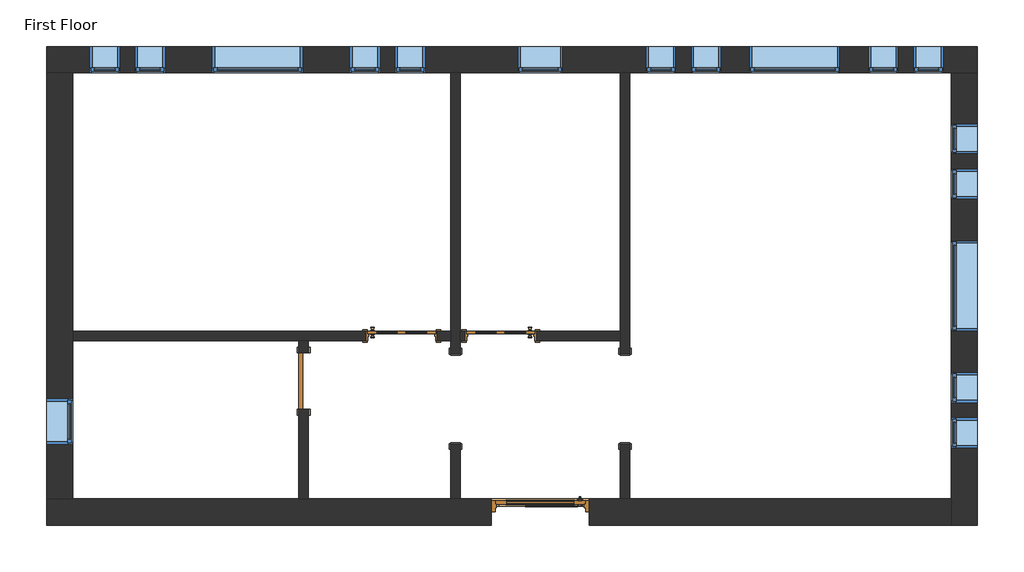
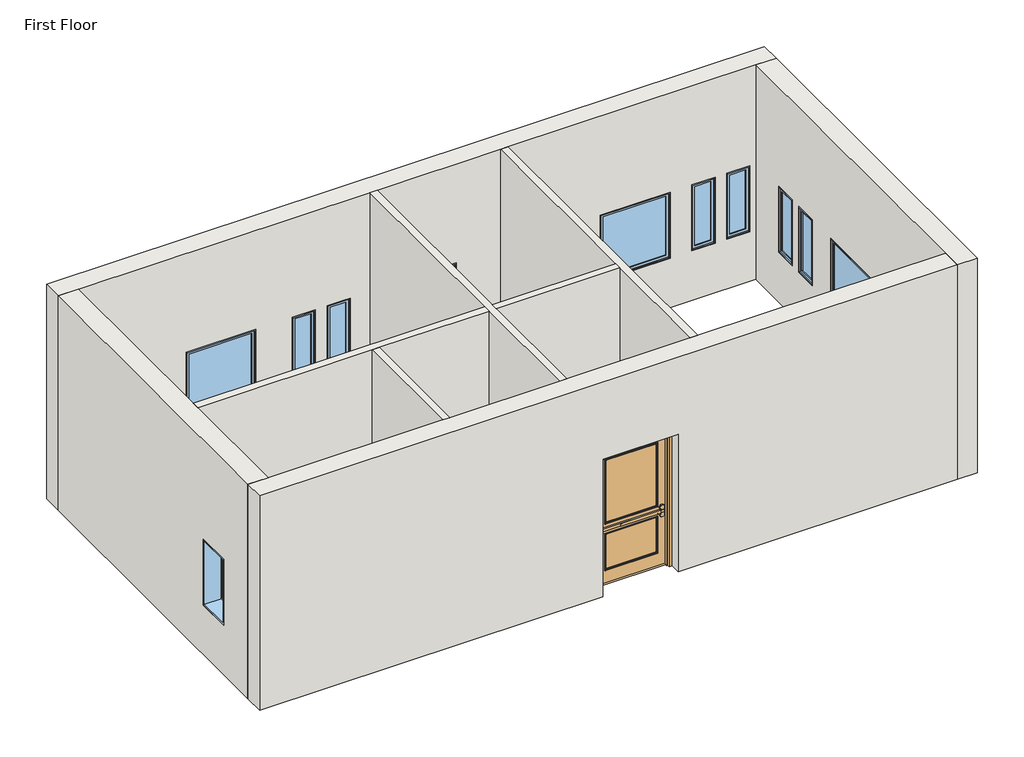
# One storey: 17 windows, 8 walls, 4 doors, 2 proxies.
"""IFC4 building model written with IfcOpenShell, lengths in millimetres."""

from ifc_helpers import new_model, si_unit, frame, origin, place, context, project, spatial, polyline, outline, extrude, faceted_brep, transform, mapped, element, save
from components import proxy_f44482cc, proxy_d58c73d0, door_734823c0, door_3a280f7b, door_48307b55, door_4d6c7550, window_da97879f, window_d61ef850, window_60baf983, window_6eb97611

model = new_model("IFC4")

# Units and contexts
model_context = context("Model", 3, world=origin())
ifc_project = project(units=[si_unit("LENGTHUNIT", "METRE", prefix="MILLI")], contexts=[model_context])

# Site, building, storey
site = spatial("IfcSite", under=ifc_project)
building = spatial("IfcBuilding", under=site)
storey = spatial("IfcBuildingStorey", under=building, Name="First Floor", Elevation=-914.4)

# Proxies
placement = place(None, origin())
proxy_shape = proxy_f44482cc(model_context)
element("IfcBuildingElementProxy", 1, Name="Passage Opening-Cased : 48\" x 84\"", ObjectType="Passage Opening-Cased : 48\" x 84\"", at=placement, inside=storey, context=model_context, shape_type="MappedRepresentation", body=[
    mapped(proxy_shape, transform((-8577.1844712, 3224.0452741, -914.4), x_axis=(0.0, 1.0, 0.0), y_axis=(-1.0, 0.0, 0.0), z_axis=(0.0, 0.0, 1.0))),
])
proxy_2_shape = proxy_d58c73d0(model_context)
element("IfcBuildingElementProxy", 2, Name="Passage Opening-Cased : 48\" x 84\"", ObjectType="Passage Opening-Cased : 48\" x 84\"", at=placement, inside=storey, context=model_context, shape_type="MappedRepresentation", body=[
    mapped(proxy_2_shape, transform((-10863.1844712, 3224.0452741, -914.4), x_axis=(0.0, 1.0, 0.0), y_axis=(-1.0, 0.0, 0.0), z_axis=(0.0, 0.0, 1.0))),
])

# Doors
door_shape = door_734823c0(model_context)
element("IfcDoor", 3, ObjectType="Door-Exterior-Single-Two_Lite : 48\" x 96\"", at=placement, inside=storey, context=model_context, shape_type="MappedRepresentation", body=[
    mapped(door_shape, transform((-9720.1844712, 1685.5066174, -914.4), x_axis=(-1.0, 0.0, 0.0), y_axis=(0.0, -1.0, 0.0), z_axis=(0.0, 0.0, 1.0))),
])
door_2_shape = door_3a280f7b(model_context)
element("IfcDoor", 4, ObjectType="Door-Interior-Single-4_Panel-Wood : 36\" x 84\"", at=placement, inside=storey, context=model_context, shape_type="MappedRepresentation", body=[
    mapped(door_2_shape, transform((-10253.5844712, 4068.3441174, -914.4), x_axis=(-1.0, 0.0, 0.0), y_axis=(0.0, -1.0, 0.0), z_axis=(0.0, 0.0, 1.0))),
])
door_3_shape = door_48307b55(model_context)
element("IfcDoor", 5, ObjectType="Door-Interior-Single-4_Panel-Wood : 36\" x 84\"", at=placement, inside=storey, context=model_context, shape_type="MappedRepresentation", body=[
    mapped(door_3_shape, transform((-11588.6719712, 4068.3441174, -914.4), x_axis=(1.0, 0.0, 0.0), y_axis=(0.0, 1.0, 0.0), z_axis=(0.0, 0.0, 1.0))),
])
door_4_shape = door_4d6c7550(model_context)
element("IfcDoor", 6, ObjectType="Single-Flush : 30\" x 84\"", at=placement, inside=storey, context=model_context, shape_type="MappedRepresentation", body=[
    mapped(door_4_shape, transform((-12909.4719712, 3455.5691174, -914.4), x_axis=(0.0, 1.0, 0.0), y_axis=(-1.0, 0.0, 0.0), z_axis=(0.0, 0.0, 1.0))),
])

# Walls
element("IfcWall", 7, ObjectType="Exterior - Brick on Mtl. Stud", at=placement, inside=storey, context=model_context, shape_type="Brep", body=[
    faceted_brep([(-16373.3969712, 7611.6441174, -914.4), (-16020.9719712, 7611.6441174, -914.4), (-10926.6844712, 7611.6441174, -914.4), (-10799.6844712, 7611.6441174, -914.4), (-8640.6844712, 7611.6441174, -914.4), (-8513.6844712, 7611.6441174, -914.4), (-4181.3969712, 7611.6441174, -914.4), (-3828.9719712, 7611.6441174, -914.4), (-3828.9719712, 7611.6441174, 3048.0), (-4181.3969712, 7611.6441174, 3048.0), (-8513.6844712, 7611.6441174, 3048.0), (-8640.6844712, 7611.6441174, 3048.0), (-10799.6844712, 7611.6441174, 3048.0), (-10926.6844712, 7611.6441174, 3048.0), (-16020.9719712, 7611.6441174, 3048.0), (-16373.3969712, 7611.6441174, 3048.0), (-10024.9844712, 7611.6441174, 1219.2), (-9415.3844712, 7611.6441174, 1219.2), (-9415.3844712, 7611.6441174, 0.0), (-10024.9844712, 7611.6441174, 0.0), (-14139.7844712, 7611.6441174, 1219.2), (-12920.5844712, 7611.6441174, 1219.2), (-12920.5844712, 7611.6441174, 0.0), (-14139.7844712, 7611.6441174, 0.0), (-6900.7844712, 7611.6441174, 1219.2), (-5681.5844712, 7611.6441174, 1219.2), (-5681.5844712, 7611.6441174, 0.0), (-6900.7844712, 7611.6441174, 0.0), (-15790.7844712, 7611.6441174, 1219.2), (-15384.3844712, 7611.6441174, 1219.2), (-15384.3844712, 7611.6441174, 0.0), (-15790.7844712, 7611.6441174, 0.0), (-15181.1844712, 7611.6441174, 1219.2), (-14774.7844712, 7611.6441174, 1219.2), (-14774.7844712, 7611.6441174, 0.0), (-15181.1844712, 7611.6441174, 0.0), (-11879.1844712, 7611.6441174, 1219.2), (-11879.1844712, 7611.6441174, 0.0), (-12285.5844712, 7611.6441174, 0.0), (-12285.5844712, 7611.6441174, 1219.2), (-11269.5844712, 7611.6441174, 1219.2), (-11269.5844712, 7611.6441174, 0.0), (-11675.9844712, 7611.6441174, 0.0), (-11675.9844712, 7611.6441174, 1219.2), (-7688.1844712, 7611.6441174, 1219.2), (-7281.7844712, 7611.6441174, 1219.2), (-7281.7844712, 7611.6441174, 0.0), (-7688.1844712, 7611.6441174, 0.0), (-8297.7844712, 7611.6441174, 1219.2), (-7891.3844712, 7611.6441174, 1219.2), (-7891.3844712, 7611.6441174, 0.0), (-8297.7844712, 7611.6441174, 0.0), (-4894.1844712, 7611.6441174, 1219.2), (-4894.1844712, 7611.6441174, 0.0), (-5300.5844712, 7611.6441174, 0.0), (-5300.5844712, 7611.6441174, 1219.2), (-4284.5844712, 7611.6441174, 1219.2), (-4284.5844712, 7611.6441174, 0.0), (-4690.9844712, 7611.6441174, 0.0), (-4690.9844712, 7611.6441174, 1219.2), (-16373.3969712, 7964.0691174, -914.4), (-16373.3969712, 7964.0691174, 3048.0), (-3828.9719712, 7964.0691174, 3048.0), (-3828.9719712, 7964.0691174, -914.4), (-10024.9844712, 7964.0691174, 1219.2), (-10024.9844712, 7964.0691174, 0.0), (-9415.3844712, 7964.0691174, 0.0), (-9415.3844712, 7964.0691174, 1219.2), (-14139.7844712, 7964.0691174, 1219.2), (-14139.7844712, 7964.0691174, 0.0), (-12920.5844712, 7964.0691174, 0.0), (-12920.5844712, 7964.0691174, 1219.2), (-6900.7844712, 7964.0691174, 1219.2), (-6900.7844712, 7964.0691174, 0.0), (-5681.5844712, 7964.0691174, 0.0), (-5681.5844712, 7964.0691174, 1219.2), (-15790.7844712, 7964.0691174, 1219.2), (-15790.7844712, 7964.0691174, 0.0), (-15384.3844712, 7964.0691174, 0.0), (-15384.3844712, 7964.0691174, 1219.2), (-15181.1844712, 7964.0691174, 1219.2), (-15181.1844712, 7964.0691174, 0.0), (-14774.7844712, 7964.0691174, 0.0), (-14774.7844712, 7964.0691174, 1219.2), (-11879.1844712, 7964.0691174, 1219.2), (-12285.5844712, 7964.0691174, 1219.2), (-12285.5844712, 7964.0691174, 0.0), (-11879.1844712, 7964.0691174, 0.0), (-11269.5844712, 7964.0691174, 1219.2), (-11675.9844712, 7964.0691174, 1219.2), (-11675.9844712, 7964.0691174, 0.0), (-11269.5844712, 7964.0691174, 0.0), (-7688.1844712, 7964.0691174, 1219.2), (-7688.1844712, 7964.0691174, 0.0), (-7281.7844712, 7964.0691174, 0.0), (-7281.7844712, 7964.0691174, 1219.2), (-8297.7844712, 7964.0691174, 1219.2), (-8297.7844712, 7964.0691174, 0.0), (-7891.3844712, 7964.0691174, 0.0), (-7891.3844712, 7964.0691174, 1219.2), (-4894.1844712, 7964.0691174, 1219.2), (-5300.5844712, 7964.0691174, 1219.2), (-5300.5844712, 7964.0691174, 0.0), (-4894.1844712, 7964.0691174, 0.0), (-4284.5844712, 7964.0691174, 1219.2), (-4690.9844712, 7964.0691174, 1219.2), (-4690.9844712, 7964.0691174, 0.0), (-4284.5844712, 7964.0691174, 0.0)], [[[0, 1, 2, 3, 4, 5, 6, 7, 8, 9, 10, 11, 12, 13, 14, 15], [16, 17, 18, 19], [20, 21, 22, 23], [24, 25, 26, 27], [28, 29, 30, 31], [32, 33, 34, 35], [36, 37, 38, 39], [40, 41, 42, 43], [44, 45, 46, 47], [48, 49, 50, 51], [52, 53, 54, 55], [56, 57, 58, 59]], [[60, 61, 62, 63], [64, 65, 66, 67], [68, 69, 70, 71], [72, 73, 74, 75], [76, 77, 78, 79], [80, 81, 82, 83], [84, 85, 86, 87], [88, 89, 90, 91], [92, 93, 94, 95], [96, 97, 98, 99], [100, 101, 102, 103], [104, 105, 106, 107]], [[7, 6, 5, 4, 3, 2, 1, 0, 60, 63]], [[15, 14, 13, 12, 11, 10, 9, 8, 62, 61]], [[8, 7, 63, 62]], [[0, 15, 61, 60]], [[65, 64, 16, 19]], [[66, 65, 19, 18]], [[67, 66, 18, 17]], [[64, 67, 17, 16]], [[69, 68, 20, 23]], [[70, 69, 23, 22]], [[71, 70, 22, 21]], [[68, 71, 21, 20]], [[73, 72, 24, 27]], [[74, 73, 27, 26]], [[75, 74, 26, 25]], [[72, 75, 25, 24]], [[77, 76, 28, 31]], [[78, 77, 31, 30]], [[79, 78, 30, 29]], [[76, 79, 29, 28]], [[81, 80, 32, 35]], [[82, 81, 35, 34]], [[83, 82, 34, 33]], [[80, 83, 33, 32]], [[37, 36, 84, 87]], [[38, 37, 87, 86]], [[39, 38, 86, 85]], [[36, 39, 85, 84]], [[41, 40, 88, 91]], [[42, 41, 91, 90]], [[43, 42, 90, 89]], [[40, 43, 89, 88]], [[93, 92, 44, 47]], [[94, 93, 47, 46]], [[95, 94, 46, 45]], [[92, 95, 45, 44]], [[97, 96, 48, 51]], [[98, 97, 51, 50]], [[99, 98, 50, 49]], [[96, 99, 49, 48]], [[53, 52, 100, 103]], [[54, 53, 103, 102]], [[55, 54, 102, 101]], [[52, 55, 101, 100]], [[57, 56, 104, 107]], [[58, 57, 107, 106]], [[59, 58, 106, 105]], [[56, 59, 105, 104]]]),
])
element("IfcWall", 8, ObjectType="Exterior - Brick on Mtl. Stud", at=placement, inside=storey, context=model_context, shape_type="Brep", body=[
    faceted_brep([(-4181.3969712, 7611.6441174, -914.4), (-4181.3969712, 1868.0691174, -914.4), (-4181.3969712, 1515.6441174, -914.4), (-4181.3969712, 1515.6441174, 3048.0), (-4181.3969712, 1868.0691174, 3048.0), (-4181.3969712, 7611.6441174, 3048.0), (-4181.3969712, 5349.4566174, 1219.2), (-4181.3969712, 4130.2566174, 1219.2), (-4181.3969712, 4130.2566174, 0.0), (-4181.3969712, 5349.4566174, 0.0), (-4181.3969712, 6314.6566174, 1219.2), (-4181.3969712, 5908.2566174, 1219.2), (-4181.3969712, 5908.2566174, 0.0), (-4181.3969712, 6314.6566174, 0.0), (-4181.3969712, 6924.2566174, 1219.2), (-4181.3969712, 6517.8566174, 1219.2), (-4181.3969712, 6517.8566174, 0.0), (-4181.3969712, 6924.2566174, 0.0), (-4181.3969712, 3165.0566174, 1219.2), (-4181.3969712, 3165.0566174, 0.0), (-4181.3969712, 3571.4566174, 0.0), (-4181.3969712, 3571.4566174, 1219.2), (-4181.3969712, 2555.4566174, 1219.2), (-4181.3969712, 2555.4566174, 0.0), (-4181.3969712, 2961.8566174, 0.0), (-4181.3969712, 2961.8566174, 1219.2), (-3828.9719712, 7611.6441174, -914.4), (-3828.9719712, 7611.6441174, 3048.0), (-3828.9719712, 1515.6441174, 3048.0), (-3828.9719712, 1515.6441174, -914.4), (-3828.9719712, 5349.4566174, 1219.2), (-3828.9719712, 5349.4566174, 0.0), (-3828.9719712, 4130.2566174, 0.0), (-3828.9719712, 4130.2566174, 1219.2), (-3828.9719712, 6314.6566174, 1219.2), (-3828.9719712, 6314.6566174, 0.0), (-3828.9719712, 5908.2566174, 0.0), (-3828.9719712, 5908.2566174, 1219.2), (-3828.9719712, 6924.2566174, 1219.2), (-3828.9719712, 6924.2566174, 0.0), (-3828.9719712, 6517.8566174, 0.0), (-3828.9719712, 6517.8566174, 1219.2), (-3828.9719712, 3165.0566174, 1219.2), (-3828.9719712, 3571.4566174, 1219.2), (-3828.9719712, 3571.4566174, 0.0), (-3828.9719712, 3165.0566174, 0.0), (-3828.9719712, 2555.4566174, 1219.2), (-3828.9719712, 2961.8566174, 1219.2), (-3828.9719712, 2961.8566174, 0.0), (-3828.9719712, 2555.4566174, 0.0)], [[[0, 1, 2, 3, 4, 5], [6, 7, 8, 9], [10, 11, 12, 13], [14, 15, 16, 17], [18, 19, 20, 21], [22, 23, 24, 25]], [[26, 27, 28, 29], [30, 31, 32, 33], [34, 35, 36, 37], [38, 39, 40, 41], [42, 43, 44, 45], [46, 47, 48, 49]], [[2, 1, 0, 26, 29]], [[5, 4, 3, 28, 27]], [[0, 5, 27, 26]], [[3, 2, 29, 28]], [[31, 30, 6, 9]], [[32, 31, 9, 8]], [[33, 32, 8, 7]], [[30, 33, 7, 6]], [[35, 34, 10, 13]], [[36, 35, 13, 12]], [[37, 36, 12, 11]], [[34, 37, 11, 10]], [[39, 38, 14, 17]], [[40, 39, 17, 16]], [[41, 40, 16, 15]], [[38, 41, 15, 14]], [[19, 18, 42, 45]], [[20, 19, 45, 44]], [[21, 20, 44, 43]], [[18, 21, 43, 42]], [[23, 22, 46, 49]], [[24, 23, 49, 48]], [[25, 24, 48, 47]], [[22, 25, 47, 46]]]),
])
element("IfcWall", 9, ObjectType="Exterior - Brick on Mtl. Stud", at=placement, inside=storey, context=model_context, shape_type="Brep", body=[
    faceted_brep([(-16373.3969712, 1868.0691174, 3048.0), (-16020.9719712, 1868.0691174, 3048.0), (-12972.9719712, 1868.0691174, 3048.0), (-12845.9719712, 1868.0691174, 3048.0), (-10926.6844712, 1868.0691174, 3048.0), (-10799.6844712, 1868.0691174, 3048.0), (-8640.6844712, 1868.0691174, 3048.0), (-8513.6844712, 1868.0691174, 3048.0), (-4181.3969712, 1868.0691174, 3048.0), (-4181.3969712, 1868.0691174, -914.4), (-8513.6844712, 1868.0691174, -914.4), (-8640.6844712, 1868.0691174, -914.4), (-9059.7844712, 1868.0691174, -914.4), (-9059.7844712, 1868.0691174, 1625.6), (-10380.5844712, 1868.0691174, 1625.6), (-10380.5844712, 1868.0691174, -914.4), (-10799.6844712, 1868.0691174, -914.4), (-10926.6844712, 1868.0691174, -914.4), (-12845.9719712, 1868.0691174, -914.4), (-12972.9719712, 1868.0691174, -914.4), (-16020.9719712, 1868.0691174, -914.4), (-16373.3969712, 1868.0691174, -914.4), (-4181.3969712, 1515.6441174, 3048.0), (-16373.3969712, 1515.6441174, 3048.0), (-16373.3969712, 1515.6441174, -914.4), (-10380.5844712, 1515.6441174, -914.4), (-10380.5844712, 1515.6441174, 1625.6), (-9059.7844712, 1515.6441174, 1625.6), (-9059.7844712, 1515.6441174, -914.4), (-4181.3969712, 1515.6441174, -914.4)], [[[0, 1, 2, 3, 4, 5, 6, 7, 8, 9, 10, 11, 12, 13, 14, 15, 16, 17, 18, 19, 20, 21]], [[22, 23, 24, 25, 26, 27, 28, 29]], [[9, 29, 28, 12, 11, 10]], [[24, 21, 20, 19, 18, 17, 16, 15, 25]], [[8, 7, 6, 5, 4, 3, 2, 1, 0, 23, 22]], [[9, 8, 22, 29]], [[0, 21, 24, 23]], [[14, 26, 25, 15]], [[26, 14, 13, 27]], [[27, 13, 12, 28]]]),
])
element("IfcWall", 10, ObjectType="Exterior - Brick on Mtl. Stud", at=placement, inside=storey, context=model_context, shape_type="Brep", body=[
    faceted_brep([(-16020.9719712, 1868.0691174, -914.4), (-16020.9719712, 4001.6691174, -914.4), (-16020.9719712, 4128.6691174, -914.4), (-16020.9719712, 7611.6441174, -914.4), (-16020.9719712, 7611.6441174, 3048.0), (-16020.9719712, 4128.6691174, 3048.0), (-16020.9719712, 4001.6691174, 3048.0), (-16020.9719712, 1868.0691174, 3048.0), (-16020.9719712, 2606.2566174, 1219.2), (-16020.9719712, 3215.8566174, 1219.2), (-16020.9719712, 3215.8566174, 0.0), (-16020.9719712, 2606.2566174, 0.0), (-16373.3969712, 1868.0691174, -914.4), (-16373.3969712, 1868.0691174, 3048.0), (-16373.3969712, 7611.6441174, 3048.0), (-16373.3969712, 7611.6441174, -914.4), (-16373.3969712, 2606.2566174, 1219.2), (-16373.3969712, 2606.2566174, 0.0), (-16373.3969712, 3215.8566174, 0.0), (-16373.3969712, 3215.8566174, 1219.2)], [[[0, 1, 2, 3, 4, 5, 6, 7], [8, 9, 10, 11]], [[12, 13, 14, 15], [16, 17, 18, 19]], [[3, 2, 1, 0, 12, 15]], [[7, 6, 5, 4, 14, 13]], [[0, 7, 13, 12]], [[4, 3, 15, 14]], [[17, 16, 8, 11]], [[18, 17, 11, 10]], [[19, 18, 10, 9]], [[16, 19, 9, 8]]]),
])
element("IfcWall", 11, ObjectType="Interior - 5\" Partition (2-hr)", at=placement, inside=storey, context=model_context, shape_type="Brep", body=[
    faceted_brep([(-8640.6844712, 7611.6441174, -914.4), (-8640.6844712, 4128.6691174, -914.4), (-8640.6844712, 4001.6691174, -914.4), (-8640.6844712, 3825.4566174, -914.4), (-8640.6844712, 3825.4566174, 1219.2), (-8640.6844712, 2606.2566174, 1219.2), (-8640.6844712, 2606.2566174, -914.4), (-8640.6844712, 1868.0691174, -914.4), (-8640.6844712, 1868.0691174, 3048.0), (-8640.6844712, 4001.6691174, 3048.0), (-8640.6844712, 4128.6691174, 3048.0), (-8640.6844712, 7611.6441174, 3048.0), (-8513.6844712, 3825.4566174, 1219.2), (-8513.6844712, 3825.4566174, -914.4), (-8513.6844712, 7611.6441174, -914.4), (-8513.6844712, 7611.6441174, 3048.0), (-8513.6844712, 1868.0691174, 3048.0), (-8513.6844712, 1868.0691174, -914.4), (-8513.6844712, 2606.2566174, -914.4), (-8513.6844712, 2606.2566174, 1219.2)], [[[0, 1, 2, 3, 4, 5, 6, 7, 8, 9, 10, 11]], [[12, 13, 14, 15, 16, 17, 18, 19]], [[18, 17, 7, 6]], [[14, 13, 3, 2, 1, 0]], [[11, 10, 9, 8, 16, 15]], [[0, 11, 15, 14]], [[8, 7, 17, 16]], [[6, 5, 19, 18]], [[4, 3, 13, 12]], [[5, 4, 12, 19]]]),
])
element("IfcWall", 12, ObjectType="Interior - 5\" Partition (2-hr)", at=placement, inside=storey, context=model_context, shape_type="Brep", body=[
    faceted_brep([(-10926.6844712, 7611.6441174, -914.4), (-10926.6844712, 4128.6691174, -914.4), (-10926.6844712, 4001.6691174, -914.4), (-10926.6844712, 3825.4566174, -914.4), (-10926.6844712, 3825.4566174, 1219.2), (-10926.6844712, 2606.2566174, 1219.2), (-10926.6844712, 2606.2566174, -914.4), (-10926.6844712, 1868.0691174, -914.4), (-10926.6844712, 1868.0691174, 3048.0), (-10926.6844712, 4001.6691174, 3048.0), (-10926.6844712, 4128.6691174, 3048.0), (-10926.6844712, 7611.6441174, 3048.0), (-10799.6844712, 3825.4566174, 1219.2), (-10799.6844712, 3825.4566174, -914.4), (-10799.6844712, 4001.6691174, -914.4), (-10799.6844712, 4128.6691174, -914.4), (-10799.6844712, 7611.6441174, -914.4), (-10799.6844712, 7611.6441174, 3048.0), (-10799.6844712, 4128.6691174, 3048.0), (-10799.6844712, 4001.6691174, 3048.0), (-10799.6844712, 1868.0691174, 3048.0), (-10799.6844712, 1868.0691174, -914.4), (-10799.6844712, 2606.2566174, -914.4), (-10799.6844712, 2606.2566174, 1219.2)], [[[0, 1, 2, 3, 4, 5, 6, 7, 8, 9, 10, 11]], [[12, 13, 14, 15, 16, 17, 18, 19, 20, 21, 22, 23]], [[22, 21, 7, 6]], [[16, 15, 14, 13, 3, 2, 1, 0]], [[11, 10, 9, 8, 20, 19, 18, 17]], [[0, 11, 17, 16]], [[8, 7, 21, 20]], [[6, 5, 23, 22]], [[4, 3, 13, 12]], [[5, 4, 12, 23]]]),
])
element("IfcWall", 13, ObjectType="Interior - 5\" Partition (2-hr)", at=placement, inside=storey, context=model_context, shape_type="Brep", body=[
    faceted_brep([(-16020.9719712, 4001.6691174, 3048.0), (-16020.9719712, 4001.6691174, -914.4), (-12972.9719712, 4001.6691174, -914.4), (-12845.9719712, 4001.6691174, -914.4), (-12071.2719712, 4001.6691174, -914.4), (-12071.2719712, 4001.6691174, 1244.6), (-11106.0719712, 4001.6691174, 1244.6), (-11106.0719712, 4001.6691174, -914.4), (-10926.6844712, 4001.6691174, -914.4), (-10926.6844712, 4001.6691174, 3048.0), (-12845.9719712, 4001.6691174, 3048.0), (-12972.9719712, 4001.6691174, 3048.0), (-16020.9719712, 4128.6691174, -914.4), (-16020.9719712, 4128.6691174, 3048.0), (-10926.6844712, 4128.6691174, 3048.0), (-10926.6844712, 4128.6691174, -914.4), (-11106.0719712, 4128.6691174, -914.4), (-11106.0719712, 4128.6691174, 1244.6), (-12071.2719712, 4128.6691174, 1244.6), (-12071.2719712, 4128.6691174, -914.4)], [[[0, 1, 2, 3, 4, 5, 6, 7, 8, 9, 10, 11]], [[12, 13, 14, 15, 16, 17, 18, 19]], [[1, 12, 19, 4, 3, 2]], [[7, 16, 15, 8]], [[13, 0, 11, 10, 9, 14]], [[1, 0, 13, 12]], [[9, 8, 15, 14]], [[6, 17, 16, 7]], [[17, 6, 5, 18]], [[18, 5, 4, 19]]]),
    faceted_brep([(-8640.6844712, 4001.6691174, -914.4), (-8640.6844712, 4001.6691174, 3048.0), (-10799.6844712, 4001.6691174, 3048.0), (-10799.6844712, 4001.6691174, -914.4), (-10736.1844712, 4001.6691174, -914.4), (-10736.1844712, 4001.6691174, 1244.6), (-9770.9844712, 4001.6691174, 1244.6), (-9770.9844712, 4001.6691174, -914.4), (-8640.6844712, 4128.6691174, 3048.0), (-8640.6844712, 4128.6691174, -914.4), (-9770.9844712, 4128.6691174, -914.4), (-9770.9844712, 4128.6691174, 1244.6), (-10736.1844712, 4128.6691174, 1244.6), (-10736.1844712, 4128.6691174, -914.4), (-10799.6844712, 4128.6691174, -914.4), (-10799.6844712, 4128.6691174, 3048.0)], [[[0, 1, 2, 3, 4, 5, 6, 7]], [[8, 9, 10, 11, 12, 13, 14, 15]], [[9, 0, 7, 10]], [[13, 4, 3, 14]], [[1, 8, 15, 2]], [[1, 0, 9, 8]], [[3, 2, 15, 14]], [[5, 4, 13, 12]], [[6, 5, 12, 11]], [[7, 6, 11, 10]]]),
])
element("IfcWall", 14, ObjectType="Interior - 5\" Partition (2-hr)", at=placement, inside=storey, context=model_context, shape_type="SweptSolid", body=[
    extrude(outline(polyline([(4001.6691174, -914.4), (3836.5691174, -914.4), (3836.5691174, 1219.2), (3074.5691174, 1219.2), (3074.5691174, -914.4), (1868.0691174, -914.4), (1868.0691174, 3048.0), (4001.6691174, 3048.0), (4001.6691174, -914.4)])), frame((-12972.9719712, 0.0, 0.0), z_axis=(1.0, 0.0, 0.0), x_axis=(0.0, 1.0, 0.0)), (0.0, 0.0, 1.0), 127.0),
])

# Windows
window_shape = window_da97879f(model_context)
element("IfcWindow", 15, ObjectType="Fixed : 16\" x 48\"", at=placement, inside=storey, context=model_context, shape_type="MappedRepresentation", body=[
    mapped(window_shape, transform((-15625.6844712, 7787.8566174, -914.4), x_axis=(-1.0, 0.0, 0.0), y_axis=(0.0, -1.0, 0.0), z_axis=(0.0, 0.0, 1.0))),
])
element("IfcWindow", 16, ObjectType="Fixed : 16\" x 48\"", at=placement, inside=storey, context=model_context, shape_type="MappedRepresentation", body=[
    mapped(window_shape, transform((-15016.0844712, 7787.8566174, -914.4), x_axis=(-1.0, 0.0, 0.0), y_axis=(0.0, -1.0, 0.0), z_axis=(0.0, 0.0, 1.0))),
])
element("IfcWindow", 17, ObjectType="Fixed : 16\" x 48\"", at=placement, inside=storey, context=model_context, shape_type="MappedRepresentation", body=[
    mapped(window_shape, transform((-8132.6844712, 7787.8566174, -914.4), x_axis=(-1.0, 0.0, 0.0), y_axis=(0.0, -1.0, 0.0), z_axis=(0.0, 0.0, 1.0))),
])
element("IfcWindow", 18, ObjectType="Fixed : 16\" x 48\"", at=placement, inside=storey, context=model_context, shape_type="MappedRepresentation", body=[
    mapped(window_shape, transform((-7523.0844712, 7787.8566174, -914.4), x_axis=(-1.0, 0.0, 0.0), y_axis=(0.0, -1.0, 0.0), z_axis=(0.0, 0.0, 1.0))),
])
element("IfcWindow", 19, ObjectType="Fixed : 16\" x 48\"", at=placement, inside=storey, context=model_context, shape_type="MappedRepresentation", body=[
    mapped(window_shape, transform((-4005.1844712, 6759.1566174, -914.4), x_axis=(0.0, 1.0, 0.0), y_axis=(-1.0, 0.0, 0.0), z_axis=(0.0, 0.0, 1.0))),
])
element("IfcWindow", 20, ObjectType="Fixed : 16\" x 48\"", at=placement, inside=storey, context=model_context, shape_type="MappedRepresentation", body=[
    mapped(window_shape, transform((-4005.1844712, 6149.5566174, -914.4), x_axis=(0.0, 1.0, 0.0), y_axis=(-1.0, 0.0, 0.0), z_axis=(0.0, 0.0, 1.0))),
])
window_2_shape = window_d61ef850(model_context)
element("IfcWindow", 21, ObjectType="Fixed : 16\" x 48\"", at=placement, inside=storey, context=model_context, shape_type="MappedRepresentation", body=[
    mapped(window_2_shape, transform((-11434.6844712, 7787.8566174, -914.4), x_axis=(1.0, 0.0, 0.0), y_axis=(0.0, 1.0, 0.0), z_axis=(0.0, 0.0, 1.0))),
])
element("IfcWindow", 22, ObjectType="Fixed : 16\" x 48\"", at=placement, inside=storey, context=model_context, shape_type="MappedRepresentation", body=[
    mapped(window_2_shape, transform((-12044.2844712, 7787.8566174, -914.4), x_axis=(1.0, 0.0, 0.0), y_axis=(0.0, 1.0, 0.0), z_axis=(0.0, 0.0, 1.0))),
])
element("IfcWindow", 23, ObjectType="Fixed : 16\" x 48\"", at=placement, inside=storey, context=model_context, shape_type="MappedRepresentation", body=[
    mapped(window_2_shape, transform((-4449.6844712, 7787.8566174, -914.4), x_axis=(1.0, 0.0, 0.0), y_axis=(0.0, 1.0, 0.0), z_axis=(0.0, 0.0, 1.0))),
])
element("IfcWindow", 24, ObjectType="Fixed : 16\" x 48\"", at=placement, inside=storey, context=model_context, shape_type="MappedRepresentation", body=[
    mapped(window_2_shape, transform((-5059.2844712, 7787.8566174, -914.4), x_axis=(1.0, 0.0, 0.0), y_axis=(0.0, 1.0, 0.0), z_axis=(0.0, 0.0, 1.0))),
])
element("IfcWindow", 25, ObjectType="Fixed : 16\" x 48\"", at=placement, inside=storey, context=model_context, shape_type="MappedRepresentation", body=[
    mapped(window_2_shape, transform((-4005.1844712, 2720.5566174, -914.4), x_axis=(0.0, -1.0, 0.0), y_axis=(1.0, 0.0, 0.0), z_axis=(0.0, 0.0, 1.0))),
])
element("IfcWindow", 26, ObjectType="Fixed : 16\" x 48\"", at=placement, inside=storey, context=model_context, shape_type="MappedRepresentation", body=[
    mapped(window_2_shape, transform((-4005.1844712, 3330.1566174, -914.4), x_axis=(0.0, -1.0, 0.0), y_axis=(1.0, 0.0, 0.0), z_axis=(0.0, 0.0, 1.0))),
])
window_3_shape = window_60baf983(model_context)
element("IfcWindow", 27, ObjectType="Fixed : 24\" x 48\"", at=placement, inside=storey, context=model_context, shape_type="MappedRepresentation", body=[
    mapped(window_3_shape, transform((-9758.2844712, 7787.8566174, -914.4), x_axis=(-1.0, 0.0, 0.0), y_axis=(0.0, -1.0, 0.0), z_axis=(0.0, 0.0, 1.0))),
])
element("IfcWindow", 28, ObjectType="Fixed : 24\" x 48\"", at=placement, inside=storey, context=model_context, shape_type="MappedRepresentation", body=[
    mapped(window_3_shape, transform((-16197.1844712, 2872.9566174, -914.4), x_axis=(0.0, -1.0, 0.0), y_axis=(1.0, 0.0, 0.0), z_axis=(0.0, 0.0, 1.0))),
])
window_4_shape = window_6eb97611(model_context)
element("IfcWindow", 29, ObjectType="Fixed : 48\" x 48\"", at=placement, inside=storey, context=model_context, shape_type="MappedRepresentation", body=[
    mapped(window_4_shape, transform((-13568.2844712, 7787.8566174, -914.4), x_axis=(-1.0, 0.0, 0.0), y_axis=(0.0, -1.0, 0.0), z_axis=(0.0, 0.0, 1.0))),
])
element("IfcWindow", 30, ObjectType="Fixed : 48\" x 48\"", at=placement, inside=storey, context=model_context, shape_type="MappedRepresentation", body=[
    mapped(window_4_shape, transform((-6329.2844712, 7787.8566174, -914.4), x_axis=(-1.0, 0.0, 0.0), y_axis=(0.0, -1.0, 0.0), z_axis=(0.0, 0.0, 1.0))),
])
element("IfcWindow", 31, ObjectType="Fixed : 48\" x 48\"", at=placement, inside=storey, context=model_context, shape_type="MappedRepresentation", body=[
    mapped(window_4_shape, transform((-4005.1844712, 4777.9566174, -914.4), x_axis=(0.0, 1.0, 0.0), y_axis=(-1.0, 0.0, 0.0), z_axis=(0.0, 0.0, 1.0))),
])

save(model, "model.ifc")
